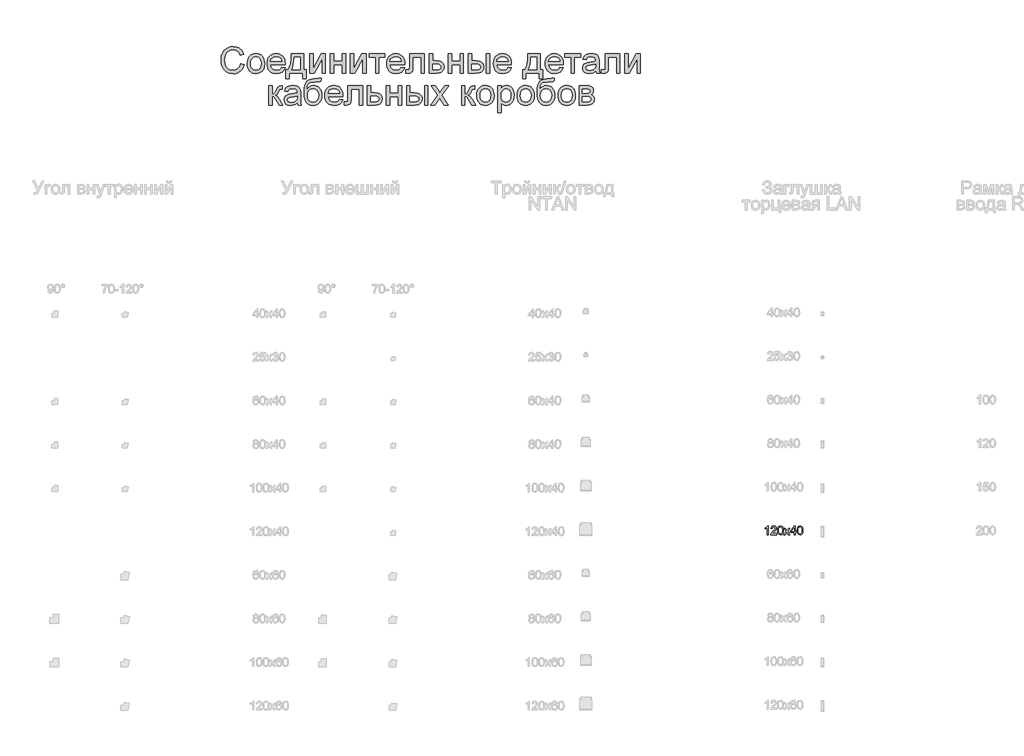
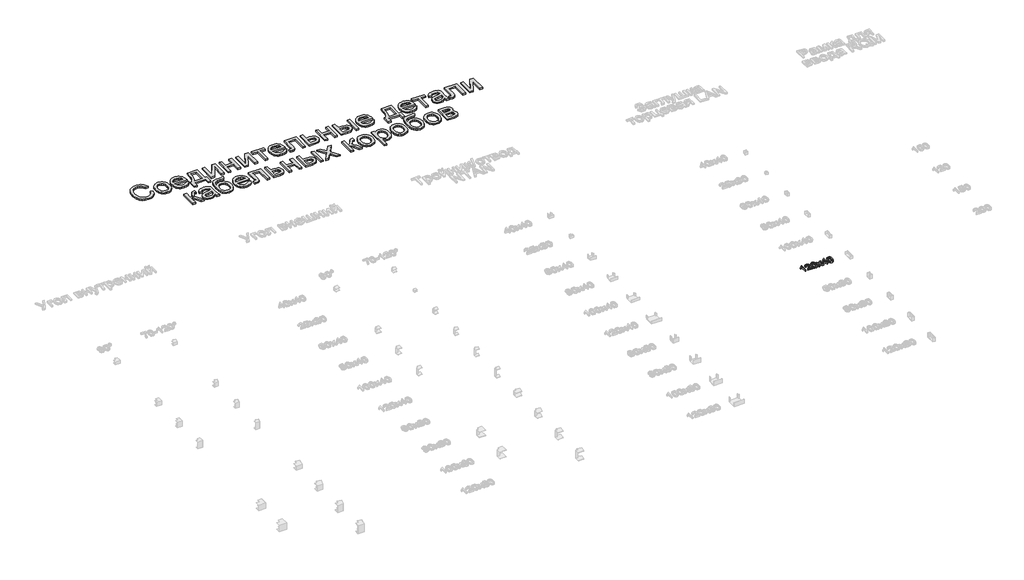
# One storey, part 26 of 28: 2 proxies.
"""IFC4 building model written with IfcOpenShell, lengths in millimetres."""

import ifcopenshell
import ifcopenshell.guid

model = None  # the IFC model being written
_history = None  # IfcOwnerHistory: only IFC2X3 demands one
_inside = {}  # id of a spatial element -> (the spatial element, [elements in it])
_under = {}  # id of a project, library or spatial element -> (it, [spatial elements below it])
_declared = {}  # id of a project -> (the project, [libraries it declares])
_typed = {}  # id of a type object -> (the type object, [elements of that type])
_made_of = {}  # id of a material, layer set ... -> (it, [elements and type objects made of it])


def new_model(schema):
    """Start an empty IFC model of exactly this schema.

    Asked for "IFC4X3", IfcOpenShell would pick the latest addendum, in which some entities
    have other attributes; the version numbers below select the first issue.
    IFC2X3 requires an IfcOwnerHistory on every rooted entity: one is made here for all.
    """
    global model, _history
    if schema == "IFC4X3":
        model = ifcopenshell.file(schema_version=(4, 3, 0, 0))
    else:
        model = ifcopenshell.file(schema=schema)
    _inside.clear()
    _under.clear()
    _declared.clear()
    _typed.clear()
    _made_of.clear()
    _history = None
    if model.schema == "IFC2X3":
        org = make("IfcOrganization", Name="unknown")
        user = make(
            "IfcPersonAndOrganization",
            ThePerson=make("IfcPerson", FamilyName="unknown"),
            TheOrganization=org,
        )
        app = make(
            "IfcApplication",
            ApplicationDeveloper=org,
            Version="unknown",
            ApplicationFullName="unknown",
            ApplicationIdentifier="unknown",
        )
        _history = make(
            "IfcOwnerHistory",
            OwningUser=user,
            OwningApplication=app,
            ChangeAction="ADDED",
            CreationDate=0,
        )
    return model


def make(cls, **values):
    """One entity of the class cls with the attributes given. An attribute that is None is left unset."""
    return model.create_entity(
        cls, **{name: value for name, value in values.items() if value is not None}
    )


def rooted(cls, **values):
    """An entity with a GlobalId (a new one), such as an element, a storey or a relation."""
    return make(cls, GlobalId=ifcopenshell.guid.new(), OwnerHistory=_history, **values)


def si_unit(unit_type, name, prefix=None):
    """IfcSIUnit, for example si_unit("LENGTHUNIT", "METRE", prefix="MILLI")."""
    return make("IfcSIUnit", UnitType=unit_type, Prefix=prefix, Name=name)


def assignment(units):
    """IfcUnitAssignment: the units of a project."""
    return None if units is None else make("IfcUnitAssignment", Units=units)


def point(xyz):
    """IfcCartesianPoint."""
    return None if xyz is None else make("IfcCartesianPoint", Coordinates=xyz)


def direction(xyz):
    """IfcDirection."""
    return None if xyz is None else make("IfcDirection", DirectionRatios=xyz)


def frame(location, z_axis=None, x_axis=None):
    """IfcAxis2Placement3D, a coordinate frame: its origin and axes. An axis left out is left unset."""
    return make(
        "IfcAxis2Placement3D",
        Location=point(location),
        Axis=direction(z_axis),
        RefDirection=direction(x_axis),
    )


def origin():
    """The frame at (0, 0, 0) with its axes left unset."""
    return frame((0.0, 0.0, 0.0))


def origin_with_axes():
    """The frame at (0, 0, 0) with the z axis (0, 0, 1) and the x axis (1, 0, 0) written out."""
    return frame((0.0, 0.0, 0.0), z_axis=(0.0, 0.0, 1.0), x_axis=(1.0, 0.0, 0.0))


def place(relative_to, where):
    """IfcLocalPlacement: puts the frame where relative to a parent placement (None: the world)."""
    return make(
        "IfcLocalPlacement", PlacementRelTo=relative_to, RelativePlacement=where
    )


def context(
    kind, dimensions, precision=None, world=None, true_north=None, identifier=None
):
    """IfcGeometricRepresentationContext, for example the 3D "Model" context."""
    return make(
        "IfcGeometricRepresentationContext",
        ContextIdentifier=identifier,
        ContextType=kind,
        CoordinateSpaceDimension=dimensions,
        Precision=precision,
        WorldCoordinateSystem=world,
        TrueNorth=true_north,
    )


def project(units=None, contexts=None):
    """IfcProject with its units and contexts."""
    return rooted(
        "IfcProject",
        Name="project",
        RepresentationContexts=contexts,
        UnitsInContext=assignment(units),
    )


def spatial(cls, under=None, at=None, **own):
    """A site, building, storey or space (cls), placed at a placement, below another one or the project."""
    s = rooted(cls, ObjectPlacement=at, **own)
    if under is not None:
        _under.setdefault(under.id(), (under, []))[1].append(s)
    return s


def polyline(points):
    """IfcPolyline through the points."""
    return make("IfcPolyline", Points=[point(p) for p in points])


def outline(outer, holes=None, kind="AREA"):
    """IfcArbitraryClosedProfileDef: a profile drawn as a closed curve; with holes, ...WithVoids."""
    if holes is None:
        return make("IfcArbitraryClosedProfileDef", ProfileType=kind, OuterCurve=outer)
    return make(
        "IfcArbitraryProfileDefWithVoids",
        ProfileType=kind,
        OuterCurve=outer,
        InnerCurves=holes,
    )


def extrude(swept, where, along, depth):
    """IfcExtrudedAreaSolid: the profile swept, set in the frame where, extruded along a direction by depth."""
    return make(
        "IfcExtrudedAreaSolid",
        SweptArea=swept,
        Position=where,
        ExtrudedDirection=direction(along),
        Depth=depth,
    )


def shape(context_of_items, identifier, shape_type, items):
    """IfcShapeRepresentation: the items that make up one representation, for example the "Body"."""
    return make(
        "IfcShapeRepresentation",
        ContextOfItems=context_of_items,
        RepresentationIdentifier=identifier,
        RepresentationType=shape_type,
        Items=items,
    )


def made_of(thing, what):
    """Note that an element or type object is made of a material, layer set ...; save() writes the relation."""
    if what is not None:
        _made_of.setdefault(what.id(), (what, []))[1].append(thing)
    return thing


def element(
    cls,
    number,
    at=None,
    inside=None,
    cuts=None,
    type_object=None,
    material=None,
    context=None,
    identifier="Body",
    shape_type=None,
    held_by="IfcProductDefinitionShape",
    body=None,
    shapes=None,
    **own,
):
    """One element of the class cls, such as IfcWall. Its Tag is "e" and its number.

    at: its placement. inside: the storey or other place that contains it. cuts: it is an
    opening in that element (IfcRelVoidsElement). A single representation is given by context,
    identifier, shape_type and body (its items); several are given by shapes. held_by: the class
    of the entity that holds the representations. save() writes the other relations.
    """
    e = rooted(cls, Tag="e%d" % number, ObjectPlacement=at, **own)
    if body is not None:
        shapes = [shape(context, identifier, shape_type, body)]
    if shapes is not None:
        e.Representation = make(held_by, Representations=shapes)
    if inside is not None:
        _inside.setdefault(inside.id(), (inside, []))[1].append(e)
    if cuts is not None:
        rooted(
            "IfcRelVoidsElement", RelatingBuildingElement=cuts, RelatedOpeningElement=e
        )
    if type_object is not None:
        _typed.setdefault(type_object.id(), (type_object, []))[1].append(e)
    return made_of(e, material)


def aggregate(whole, parts):
    """IfcRelAggregates: a whole, such as a stair, and the parts it consists of."""
    return rooted("IfcRelAggregates", RelatingObject=whole, RelatedObjects=parts)


def save(model, path):
    """Write the relations noted so far, then the file.

    IfcRelAggregates (storeys below a building ...), IfcRelContainedInSpatialStructure (elements
    in a storey), IfcRelDefinesByType, IfcRelAssociatesMaterial and IfcRelDeclares: one each for
    every whole, place, type object, material and project.
    """
    for whole, parts in _under.values():
        aggregate(whole, parts)
    for where, things in _inside.values():
        rooted(
            "IfcRelContainedInSpatialStructure",
            RelatedElements=things,
            RelatingStructure=where,
        )
    for kind, things in _typed.values():
        rooted("IfcRelDefinesByType", RelatedObjects=things, RelatingType=kind)
    for what, things in _made_of.values():
        rooted("IfcRelAssociatesMaterial", RelatedObjects=things, RelatingMaterial=what)
    for by, libraries in _declared.values():
        rooted("IfcRelDeclares", RelatingContext=by, RelatedDefinitions=libraries)
    model.write(path)


model = new_model("IFC4")

# Units and contexts
model_context = context("Model", 3, world=origin())
ifc_project = project(units=[si_unit("LENGTHUNIT", "METRE", prefix="MILLI")], contexts=[model_context])

# Site, building, storey
site = spatial("IfcSite", under=ifc_project)
building = spatial("IfcBuilding", under=site)
storey = spatial("IfcBuildingStorey", under=building, Name="Этаж 01", Elevation=0.0)

# Proxies
placement = place(None, origin())
element("IfcBuildingElementProxy", 1, Name="300 мм Arial", ObjectType="300 мм Arial", at=placement, inside=storey, context=model_context, shape_type="SweptSolid", body=[
    extrude(outline(polyline([(17918.2700237, 5946.6326369), (17955.94114, 5936.9205523), (17948.4869311, 5913.4933669), (17938.5587157, 5893.0230332), (17926.1564939, 5875.5095509), (17911.2802658, 5860.9529202), (17894.2657235, 5849.5094909), (17875.4485594, 5841.3356129), (17854.8287736, 5836.431286), (17832.406366, 5834.7965104), (17788.711182, 5839.7445232), (17754.0107128, 5854.5885617), (17727.4128446, 5878.8135911), (17708.0254634, 5911.9045766), (17696.1888602, 5950.8080976), (17692.2433258, 5992.4707335), (17696.703895, 6036.4142378), (17710.0856026, 6074.3612656), (17731.6894728, 6105.1070034), (17760.8165297, 6127.4466376), (17795.3606491, 6141.0490743), (17833.2157064, 6145.5832199), (17874.5196574, 6139.7155021), (17892.4883936, 6132.3808548), (17908.6683036, 6122.1123486), (17922.792673, 6109.1812965), (17934.5947872, 6093.8590114), (17951.2322504, 6056.0407423), (17913.5611341, 6047.0644216), (17900.5013233, 6074.5360096), (17882.6590465, 6093.3807648), (17859.8135746, 6104.2792689), (17831.7441784, 6107.9121036), (17799.3889569, 6103.8837958), (17772.8094828, 6091.7988722), (17752.6403524, 6072.9265259), (17739.5161622, 6048.5359496), (17732.3148722, 6020.963194), (17729.9144421, 5992.5443099), (17732.7563306, 5957.7426732), (17741.2819958, 5927.649926), (17755.8133346, 5903.4156995), (17776.6722437, 5886.1896251), (17801.6790224, 5875.8981263), (17828.6539697, 5872.4676267), (17860.0986832, 5877.139728), (17886.3010783, 5891.1560321), (17906.0839326, 5914.3693859), (17918.2700237, 5946.6326369)])), origin_with_axes(), (0.0, 0.0, 1.0), 20.0),
    extrude(outline(polyline([(17993.6122563, 5950.1643041), (17995.6494028, 5978.82691), (18001.7608425, 6003.5255875), (18011.9465752, 6024.2603364), (18026.2066011, 6041.0311569), (18040.5631959, 6051.7503185), (18056.4097129, 6059.4068625), (18073.7461519, 6064.000789), (18092.572513, 6065.5320978), (18113.3555465, 6063.6673959), (18132.1474186, 6058.0732903), (18148.9481295, 6048.749781), (18163.7576791, 6035.696868), (18175.8449019, 6019.3560096), (18184.4786324, 6000.1686643), (18189.6588708, 5978.134832), (18191.3856169, 5953.2545128), (18188.3321963, 5915.1971204), (18179.1719347, 5886.2264133), (18164.1715463, 5864.5305726), (18143.5977457, 5848.2977796), (18119.1611842, 5838.1718277), (18092.572513, 5834.7965104), (18071.4859769, 5836.6543145), (18052.5193608, 5842.2277267), (18035.6726646, 5851.5167471), (18020.9458885, 5864.5213756), (18008.9874244, 5881.0208831), (18000.4456643, 5900.7945403), (17995.3206083, 5923.8423473), (17993.6122563, 5950.1643041)]), holes=[polyline([(18031.2833726, 5950.2378805), (18035.6427742, 5916.1444166), (18048.7209792, 5891.8550078), (18068.4026659, 5877.314472), (18092.572513, 5872.4676267), (18116.6319955, 5877.3420631), (18136.276894, 5891.9653724), (18149.3550989, 5916.5766779), (18153.7145006, 5951.4151029), (18149.3275078, 5984.5152854), (18136.1665294, 6008.4736003), (18116.4940397, 6023.0141362), (18092.572513, 6027.8609815), (18068.4026659, 6023.0325303), (18048.7209792, 6008.5471767), (18035.6427742, 5984.3129503), (18031.2833726, 5950.2378805)])]), origin_with_axes(), (0.0, 0.0, 1.0), 20.0),
    extrude(outline(polyline([(18388.7175191, 5905.4298535), (18425.6528714, 5900.7209639), (18412.3447402, 5872.890691), (18391.1087521, 5852.0869642), (18362.4231535, 5839.1191238), (18326.7661911, 5834.7965104), (18303.3918889, 5836.6612123), (18282.5651694, 5842.2553178), (18264.2860328, 5851.5788272), (18248.5544789, 5864.6317402), (18235.9039368, 5881.0507735), (18226.8678353, 5900.4726436), (18221.4461744, 5922.8973504), (18219.6389541, 5948.3248941), (18221.4645685, 5974.6146612), (18226.9414117, 5997.7866284), (18236.0694837, 6017.8407956), (18248.8487845, 6034.777163), (18264.5389516, 6048.2324469), (18282.3996225, 6057.8433641), (18302.4307971, 6063.6099143), (18324.6324755, 6065.5320978), (18346.1190833, 6063.6145129), (18365.5501505, 6057.8617582), (18382.9256769, 6048.2738337), (18398.2456628, 6034.8507394), (18410.7513514, 6017.9511602), (18419.6839861, 5997.9337812), (18425.0435669, 5974.7986022), (18426.8300938, 5948.5456233), (18426.6093646, 5938.3920802), (18257.3100704, 5938.3920802), (18263.8307788, 5910.1939253), (18278.9783199, 5889.4637749), (18300.8397075, 5876.7166637), (18327.5019551, 5872.4676267), (18347.5515238, 5874.4357954), (18364.4373074, 5880.3403014), (18378.1593058, 5890.5490268), (18388.7175191, 5905.4298535)]), holes=[polyline([(18257.3100704, 5976.0631965), (18389.1589775, 5976.0631965), (18384.0638119, 5995.9656125), (18374.0758157, 6010.2026457), (18352.1132606, 6023.4463975), (18324.4853228, 6027.8609815), (18299.092268, 6024.3385114), (18278.0954032, 6013.771101), (18263.499685, 5997.2991847), (18257.3100704, 5976.0631965)])]), origin_with_axes(), (0.0, 0.0, 1.0), 20.0),
    extrude(outline(polyline([(18497.4634369, 6060.8232082), (18638.730123, 6060.8232082), (18638.730123, 5877.1765162), (18666.9834603, 5877.1765162), (18666.9834603, 5778.2898359), (18629.312344, 5778.2898359), (18629.312344, 5839.5053999), (18473.9189892, 5839.5053999), (18473.9189892, 5778.2898359), (18436.2478729, 5778.2898359), (18436.2478729, 5877.1765162), (18459.7923206, 5877.1765162), (18476.9080304, 5908.106195), (18488.8917864, 5949.0238699), (18495.7435886, 5999.929541), (18497.4634369, 6060.8232082)]), holes=[polyline([(18530.4256637, 6023.1520919), (18527.3354549, 5977.0288868), (18521.5964958, 5937.3252224), (18513.2087863, 5904.0410989), (18502.1723264, 5877.1765162), (18601.0590067, 5877.1765162), (18601.0590067, 6023.1520919), (18530.4256637, 6023.1520919)])]), origin_with_axes(), (0.0, 0.0, 1.0), 20.0),
    extrude(outline(polyline([(18709.3634661, 6060.8232082), (18747.0345824, 6060.8232082), (18747.0345824, 5892.0389488), (18839.5936924, 6060.8232082), (18888.3012686, 6060.8232082), (18888.3012686, 5839.5053999), (18850.6301523, 5839.5053999), (18850.6301523, 6007.2595897), (18758.6596535, 5839.5053999), (18709.3634661, 5839.5053999), (18709.3634661, 6060.8232082)])), origin_with_axes(), (0.0, 0.0, 1.0), 20.0),
    extrude(outline(polyline([(18944.807943, 6060.8232082), (18982.4790593, 6060.8232082), (18982.4790593, 5976.0631965), (19081.3657396, 5976.0631965), (19081.3657396, 6060.8232082), (19119.0368559, 6060.8232082), (19119.0368559, 5839.5053999), (19081.3657396, 5839.5053999), (19081.3657396, 5938.3920802), (18982.4790593, 5938.3920802), (18982.4790593, 5839.5053999), (18944.807943, 5839.5053999), (18944.807943, 6060.8232082)])), origin_with_axes(), (0.0, 0.0, 1.0), 20.0),
    extrude(outline(polyline([(19175.5435304, 6060.8232082), (19213.2146467, 6060.8232082), (19213.2146467, 5892.0389488), (19305.7737567, 6060.8232082), (19354.4813328, 6060.8232082), (19354.4813328, 5839.5053999), (19316.8102165, 5839.5053999), (19316.8102165, 6007.2595897), (19224.8397177, 5839.5053999), (19175.5435304, 5839.5053999), (19175.5435304, 6060.8232082)])), origin_with_axes(), (0.0, 0.0, 1.0), 20.0),
    extrude(outline(polyline([(19392.1524492, 6060.8232082), (19571.0902516, 6060.8232082), (19571.0902516, 6023.1520919), (19500.4569085, 6023.1520919), (19500.4569085, 5839.5053999), (19462.7857922, 5839.5053999), (19462.7857922, 6023.1520919), (19392.1524492, 6023.1520919), (19392.1524492, 6060.8232082)])), origin_with_axes(), (0.0, 0.0, 1.0), 20.0),
    extrude(outline(polyline([(19759.0043747, 5905.4298535), (19795.9397271, 5900.7209639), (19782.6315959, 5872.890691), (19761.3956077, 5852.0869642), (19732.7100091, 5839.1191238), (19697.0530468, 5834.7965104), (19673.6787445, 5836.6612123), (19652.852025, 5842.2553178), (19634.5728884, 5851.5788272), (19618.8413346, 5864.6317402), (19606.1907925, 5881.0507735), (19597.154691, 5900.4726436), (19591.7330301, 5922.8973504), (19589.9258098, 5948.3248941), (19591.7514242, 5974.6146612), (19597.2282674, 5997.7866284), (19606.3563394, 6017.8407956), (19619.1356402, 6034.777163), (19634.8258073, 6048.2324469), (19652.6864781, 6057.8433641), (19672.7176528, 6063.6099143), (19694.9193312, 6065.5320978), (19716.405939, 6063.6145129), (19735.8370061, 6057.8617582), (19753.2125326, 6048.2738337), (19768.5325184, 6034.8507394), (19781.038207, 6017.9511602), (19789.9708417, 5997.9337812), (19795.3304225, 5974.7986022), (19797.1169494, 5948.5456233), (19796.8962202, 5938.3920802), (19627.5969261, 5938.3920802), (19634.1176344, 5910.1939253), (19649.2651756, 5889.4637749), (19671.1265631, 5876.7166637), (19697.7888107, 5872.4676267), (19717.8383795, 5874.4357954), (19734.7241631, 5880.3403014), (19748.4461615, 5890.5490268), (19759.0043747, 5905.4298535)]), holes=[polyline([(19627.5969261, 5976.0631965), (19759.4458331, 5976.0631965), (19754.3506675, 5995.9656125), (19744.3626713, 6010.2026457), (19722.4001162, 6023.4463975), (19694.7721784, 6027.8609815), (19669.3791237, 6024.3385114), (19648.3822588, 6013.771101), (19633.7865406, 5997.2991847), (19627.5969261, 5976.0631965)])]), origin_with_axes(), (0.0, 0.0, 1.0), 20.0),
    extrude(outline(polyline([(19853.6236239, 6060.8232082), (20023.1436473, 6060.8232082), (20023.1436473, 5839.7261291), (19985.472531, 5839.7261291), (19985.472531, 6023.1520919), (19891.2947402, 6023.1520919), (19891.2947402, 5917.5699593), (19888.7563544, 5868.8623831), (19884.0014797, 5857.8351203), (19874.8136268, 5848.2977796), (19860.8708992, 5841.7034948), (19841.8514001, 5839.5053999), (19811.2436181, 5841.4183863), (19811.2436181, 5877.1765162), (19828.0926134, 5877.1765162), (19845.1255498, 5879.4941728), (19851.9313667, 5886.8518127), (19853.6236239, 5919.7036749), (19853.6236239, 6060.8232082)])), origin_with_axes(), (0.0, 0.0, 1.0), 20.0),
    extrude(outline(polyline([(20079.6503217, 6060.8232082), (20117.321438, 6060.8232082), (20117.321438, 5980.7720861), (20160.7315135, 5980.7720861), (20198.3658416, 5976.0539995), (20213.5133827, 5970.1563913), (20226.2145086, 5961.8997397), (20236.2576871, 5951.5691534), (20243.431386, 5939.449741), (20249.1703451, 5909.8444374), (20244.2867116, 5882.8878842), (20229.6358112, 5860.1435799), (20218.403914, 5851.1143761), (20204.2427565, 5844.6649449), (20167.1326602, 5839.5053999), (20079.6503217, 5839.5053999), (20079.6503217, 6060.8232082)]), holes=[polyline([(20117.321438, 5877.1765162), (20152.4909568, 5877.1765162), (20179.7786038, 5879.153882), (20197.9243832, 5885.0859791), (20208.1055174, 5895.211931), (20211.4992288, 5909.770861), (20208.9884342, 5922.0765137), (20201.4560503, 5932.9474267), (20185.3152278, 5940.562584), (20156.9791171, 5943.1009698), (20117.321438, 5943.1009698), (20117.321438, 5877.1765162)])]), origin_with_axes(), (0.0, 0.0, 1.0), 20.0),
    extrude(outline(polyline([(20296.2592405, 6060.8232082), (20333.9303568, 6060.8232082), (20333.9303568, 5976.0631965), (20432.8170371, 5976.0631965), (20432.8170371, 6060.8232082), (20470.4881534, 6060.8232082), (20470.4881534, 5839.5053999), (20432.8170371, 5839.5053999), (20432.8170371, 5938.3920802), (20333.9303568, 5938.3920802), (20333.9303568, 5839.5053999), (20296.2592405, 5839.5053999), (20296.2592405, 6060.8232082)])), origin_with_axes(), (0.0, 0.0, 1.0), 20.0),
    extrude(outline(polyline([(20734.1859676, 6060.8232082), (20771.8570839, 6060.8232082), (20771.8570839, 5839.5053999), (20734.1859676, 5839.5053999), (20734.1859676, 6060.8232082)])), origin_with_axes(), (0.0, 0.0, 1.0), 20.0),
    extrude(outline(polyline([(20526.9948279, 6060.8232082), (20564.6659442, 6060.8232082), (20564.6659442, 5980.7720861), (20611.2398048, 5980.7720861), (20651.4952921, 5976.0539995), (20667.7119903, 5970.1563913), (20681.3213249, 5961.8997397), (20692.088771, 5951.5691534), (20699.779804, 5939.449741), (20704.3944237, 5925.5415023), (20705.9326303, 5909.8444374), (20700.7730853, 5882.8878842), (20685.2944504, 5860.1435799), (20673.4325553, 5851.1143761), (20658.48505, 5844.6649449), (20619.3332087, 5839.5053999), (20526.9948279, 5839.5053999), (20526.9948279, 6060.8232082)]), holes=[polyline([(20564.6659442, 5877.1765162), (20603.3671301, 5877.1765162), (20633.3679068, 5879.153882), (20653.325505, 5885.0859791), (20664.5275118, 5895.211931), (20668.261514, 5909.770861), (20665.493202, 5922.0765137), (20657.188266, 5932.9474267), (20639.4287627, 5940.562584), (20608.2967488, 5943.1009698), (20564.6659442, 5943.1009698), (20564.6659442, 5877.1765162)])]), origin_with_axes(), (0.0, 0.0, 1.0), 20.0),
    extrude(outline(polyline([(20983.3156547, 5905.4298535), (21020.251007, 5900.7209639), (21006.9428758, 5872.890691), (20985.7068877, 5852.0869642), (20957.0212891, 5839.1191238), (20921.3643267, 5834.7965104), (20897.9900244, 5836.6612123), (20877.163305, 5842.2553178), (20858.8841683, 5851.5788272), (20843.1526145, 5864.6317402), (20830.5020724, 5881.0507735), (20821.4659709, 5900.4726436), (20816.04431, 5922.8973504), (20814.2370897, 5948.3248941), (20816.0627041, 5974.6146612), (20821.5395473, 5997.7866284), (20830.6676193, 6017.8407956), (20843.4469201, 6034.777163), (20859.1370872, 6048.2324469), (20876.9977581, 6057.8433641), (20897.0289327, 6063.6099143), (20919.2306111, 6065.5320978), (20940.7172189, 6063.6145129), (20960.148286, 6057.8617582), (20977.5238125, 6048.2738337), (20992.8437984, 6034.8507394), (21005.3494869, 6017.9511602), (21014.2821216, 5997.9337812), (21019.6417025, 5974.7986022), (21021.4282294, 5948.5456233), (21021.2075002, 5938.3920802), (20851.908206, 5938.3920802), (20858.4289144, 5910.1939253), (20873.5764555, 5889.4637749), (20895.4378431, 5876.7166637), (20922.1000907, 5872.4676267), (20942.1496594, 5874.4357954), (20959.035443, 5880.3403014), (20972.7574414, 5890.5490268), (20983.3156547, 5905.4298535)]), holes=[polyline([(20851.908206, 5976.0631965), (20983.7571131, 5976.0631965), (20978.6619475, 5995.9656125), (20968.6739513, 6010.2026457), (20946.7113962, 6023.4463975), (20919.0834583, 6027.8609815), (20893.6904036, 6024.3385114), (20872.6935387, 6013.771101), (20858.0978206, 5997.2991847), (20851.908206, 5976.0631965)])]), origin_with_axes(), (0.0, 0.0, 1.0), 20.0),
    extrude(outline(polyline([(21209.7838109, 6060.8232082), (21351.0504971, 6060.8232082), (21351.0504971, 5877.1765162), (21379.3038343, 5877.1765162), (21379.3038343, 5778.2898359), (21341.632718, 5778.2898359), (21341.632718, 5839.5053999), (21186.2393632, 5839.5053999), (21186.2393632, 5778.2898359), (21148.5682469, 5778.2898359), (21148.5682469, 5877.1765162), (21172.1126946, 5877.1765162), (21189.2284044, 5908.106195), (21201.2121604, 5949.0238699), (21208.0639626, 5999.929541), (21209.7838109, 6060.8232082)]), holes=[polyline([(21242.7460377, 6023.1520919), (21239.6558289, 5977.0288868), (21233.9168698, 5937.3252224), (21225.5291603, 5904.0410989), (21214.4927005, 5877.1765162), (21313.3793808, 5877.1765162), (21313.3793808, 6023.1520919), (21242.7460377, 6023.1520919)])]), origin_with_axes(), (0.0, 0.0, 1.0), 20.0),
    extrude(outline(polyline([(21576.6357365, 5905.4298535), (21613.5710888, 5900.7209639), (21600.2629577, 5872.890691), (21579.0269695, 5852.0869642), (21550.3413709, 5839.1191238), (21514.6844085, 5834.7965104), (21491.3101063, 5836.6612123), (21470.4833868, 5842.2553178), (21452.2042502, 5851.5788272), (21436.4726964, 5864.6317402), (21423.8221542, 5881.0507735), (21414.7860527, 5900.4726436), (21409.3643918, 5922.8973504), (21407.5571715, 5948.3248941), (21409.3827859, 5974.6146612), (21414.8596291, 5997.7866284), (21423.9877011, 6017.8407956), (21436.7670019, 6034.777163), (21452.457169, 6048.2324469), (21470.3178399, 6057.8433641), (21490.3490145, 6063.6099143), (21512.550693, 6065.5320978), (21534.0373007, 6063.6145129), (21553.4683679, 6057.8617582), (21570.8438944, 6048.2738337), (21586.1638802, 6034.8507394), (21598.6695688, 6017.9511602), (21607.6022035, 5997.9337812), (21612.9617843, 5974.7986022), (21614.7483112, 5948.5456233), (21614.527582, 5938.3920802), (21445.2282878, 5938.3920802), (21451.7489962, 5910.1939253), (21466.8965374, 5889.4637749), (21488.7579249, 5876.7166637), (21515.4201725, 5872.4676267), (21535.4697413, 5874.4357954), (21552.3555248, 5880.3403014), (21566.0775233, 5890.5490268), (21576.6357365, 5905.4298535)]), holes=[polyline([(21445.2282878, 5976.0631965), (21577.0771949, 5976.0631965), (21571.9820293, 5995.9656125), (21561.9940331, 6010.2026457), (21540.031478, 6023.4463975), (21512.4035402, 6027.8609815), (21487.0104854, 6024.3385114), (21466.0136206, 6013.771101), (21451.4179024, 5997.2991847), (21445.2282878, 5976.0631965)])]), origin_with_axes(), (0.0, 0.0, 1.0), 20.0),
    extrude(outline(polyline([(21633.5838694, 6060.8232082), (21812.5216718, 6060.8232082), (21812.5216718, 6023.1520919), (21741.8883287, 6023.1520919), (21741.8883287, 5839.5053999), (21704.2172124, 5839.5053999), (21704.2172124, 6023.1520919), (21633.5838694, 6023.1520919), (21633.5838694, 6060.8232082)])), origin_with_axes(), (0.0, 0.0, 1.0), 20.0),
    extrude(outline(polyline([(21986.7505847, 5867.7587372), (21968.7519581, 5852.3260875), (21950.2199026, 5842.2277267), (21930.7313539, 5836.6543145), (21909.8632477, 5834.7965104), (21878.381746, 5839.2662766), (21855.1591951, 5852.6755754), (21840.8393884, 5873.0378438), (21836.0661195, 5898.3665192), (21837.8687413, 5913.9831099), (21843.2766066, 5928.1649608), (21851.6183309, 5940.3050666), (21862.2225294, 5949.7964221), (21888.5996684, 5962.1572571), (21921.1940132, 5967.8226398), (21959.7112581, 5973.7823282), (21986.5298555, 5980.7720861), (21986.7505847, 5989.1597956), (21984.1570167, 6005.9720027), (21976.3763125, 6016.9716744), (21958.9754941, 6025.1386547), (21934.7320706, 6027.8609815), (21912.2912689, 6026.0491626), (21896.6194959, 6020.6137062), (21885.932524, 6010.5613306), (21878.4461254, 5994.8987547), (21840.775009, 5999.6076442), (21847.3141115, 6020.209036), (21857.0721814, 6036.3958437), (21870.9597268, 6048.7750729), (21889.8872554, 6057.9537287), (21913.03623, 6063.6375055), (21939.588113, 6065.5320978), (21965.0547441, 6063.8582347), (21985.2422686, 6058.8366455), (22000.4633861, 6051.2858675), (22011.0307964, 6042.0244383), (22018.0389484, 6030.5741112), (22022.5822911, 6016.4566396), (22024.421701, 5983.4944128), (22024.421701, 5936.6262467), (22026.3346874, 5871.1800397), (22033.8394801, 5839.5053999), (21996.1683638, 5839.5053999), (21986.7505847, 5867.7587372)]), holes=[polyline([(21986.7505847, 5943.1009698), (21925.9764791, 5931.5494751), (21893.5660754, 5925.442634), (21878.8875838, 5915.5098201), (21873.7372358, 5901.0152695), (21876.542336, 5889.8132628), (21884.9576367, 5880.634607), (21898.7991967, 5874.5093718), (21917.8830752, 5872.4676267), (21938.116585, 5874.7209039), (21955.9956499, 5881.4807356), (21970.4902005, 5891.4411406), (21980.5701672, 5903.2961379), (21985.0399335, 5915.5098201), (21986.5298555, 5932.4323919), (21986.7505847, 5943.1009698)])]), origin_with_axes(), (0.0, 0.0, 1.0), 20.0),
    extrude(outline(polyline([(22095.0550441, 6060.8232082), (22264.5750675, 6060.8232082), (22264.5750675, 5839.7261291), (22226.9039512, 5839.7261291), (22226.9039512, 6023.1520919), (22132.7261604, 6023.1520919), (22132.7261604, 5917.5699593), (22130.1877747, 5868.8623831), (22125.4328999, 5857.8351203), (22116.245047, 5848.2977796), (22102.3023194, 5841.7034948), (22083.2828203, 5839.5053999), (22052.6750383, 5841.4183863), (22052.6750383, 5877.1765162), (22069.5240337, 5877.1765162), (22086.55697, 5879.4941728), (22093.3627869, 5886.8518127), (22095.0550441, 5919.7036749), (22095.0550441, 6060.8232082)])), origin_with_axes(), (0.0, 0.0, 1.0), 20.0),
    extrude(outline(polyline([(22321.081742, 6060.8232082), (22358.7528583, 6060.8232082), (22358.7528583, 5892.0389488), (22451.3119682, 6060.8232082), (22500.0195444, 6060.8232082), (22500.0195444, 5839.5053999), (22462.3484281, 5839.5053999), (22462.3484281, 6007.2595897), (22370.3779293, 5839.5053999), (22321.081742, 5839.5053999), (22321.081742, 6060.8232082)])), origin_with_axes(), (0.0, 0.0, 1.0), 20.0),
    extrude(outline(polyline([(18240.828957, 5694.8987547), (18278.5000734, 5694.8987547), (18278.5000734, 5600.7209639), (18293.8223585, 5602.4132211), (18303.7367782, 5607.4899926), (18312.5107638, 5620.7337445), (18324.4117464, 5646.9269425), (18341.5918355, 5680.9560271), (18356.7485737, 5692.0292751), (18384.3029352, 5694.8987547), (18391.5134223, 5694.8987547), (18391.5134223, 5657.0069092), (18381.3598792, 5657.2276384), (18362.9657794, 5653.2545128), (18350.0163332, 5628.4592664), (18334.8228068, 5601.6406689), (18313.5224393, 5588.5072817), (18325.46021, 5583.2051824), (18337.2876162, 5573.8471842), (18360.6113347, 5542.9634907), (18400.9312013, 5473.5809464), (18358.1097371, 5473.5809464), (18318.5992108, 5541.4919627), (18298.7335831, 5570.2235465), (18289.4445627, 5575.4382738), (18278.5000734, 5577.1765162), (18278.5000734, 5473.5809464), (18240.828957, 5473.5809464), (18240.828957, 5694.8987547)])), origin_with_axes(), (0.0, 0.0, 1.0), 20.0),
    extrude(outline(polyline([(18565.7423352, 5501.8342836), (18547.7437086, 5486.4016339), (18529.2116531, 5476.3032732), (18509.7231044, 5470.7298609), (18488.8549982, 5468.8720569), (18457.3734965, 5473.3418231), (18434.1509455, 5486.7511218), (18419.8311389, 5507.1133903), (18415.05787, 5532.4420656), (18416.8604917, 5548.0586563), (18422.2683571, 5562.2405072), (18430.6100813, 5574.3806131), (18441.2142798, 5583.8719685), (18467.5914189, 5596.2328036), (18500.1857636, 5601.8981863), (18538.7030085, 5607.8578746), (18565.521606, 5614.8476325), (18565.7423352, 5623.235342), (18563.1487671, 5640.0475492), (18555.3680629, 5651.0472209), (18537.9672446, 5659.2142012), (18513.7238211, 5661.9365279), (18491.2830194, 5660.1247091), (18475.6112464, 5654.6892526), (18464.9242744, 5644.6368771), (18457.4378758, 5628.9743012), (18419.7667595, 5633.6831907), (18426.305862, 5654.2845824), (18436.0639319, 5670.4713902), (18449.9514772, 5682.8506193), (18468.8790059, 5692.0292751), (18492.0279804, 5697.713052), (18518.5798634, 5699.6076442), (18544.0464945, 5697.9337812), (18564.234019, 5692.9121919), (18579.4551366, 5685.361414), (18590.0225469, 5676.0999847), (18597.0306989, 5664.6496576), (18601.5740415, 5650.5321861), (18603.4134515, 5617.5699593), (18603.4134515, 5570.7017931), (18605.3264379, 5505.2555862), (18612.8312306, 5473.5809464), (18575.1601143, 5473.5809464), (18565.7423352, 5501.8342836)]), holes=[polyline([(18565.7423352, 5577.1765162), (18504.9682296, 5565.6250216), (18472.5578258, 5559.5181805), (18457.8793342, 5549.5853666), (18452.7289863, 5535.090816), (18455.5340865, 5523.8888092), (18463.9493871, 5514.7101535), (18477.7909472, 5508.5849182), (18496.8748257, 5506.5431732), (18517.1083354, 5508.7964504), (18534.9874004, 5515.556282), (18549.481951, 5525.5166871), (18559.5619177, 5537.3716844), (18564.0316839, 5549.5853666), (18565.521606, 5566.5079384), (18565.7423352, 5577.1765162)])]), origin_with_axes(), (0.0, 0.0, 1.0), 20.0),
    extrude(outline(polyline([(18810.6045912, 5779.6587664), (18843.5668179, 5779.6587664), (18839.9983626, 5761.7521103), (18833.8547333, 5750.264995), (18825.3382651, 5743.4683751), (18814.6512931, 5739.6332053), (18768.5188909, 5737.2787605), (18730.2131782, 5735.1082568), (18706.3836219, 5728.5967454), (18692.1281946, 5717.3027682), (18682.5448687, 5700.7848666), (18676.9070771, 5678.914282), (18674.488253, 5651.5622557), (18689.6357941, 5672.6051058), (18707.1193859, 5687.6146912), (18726.9574225, 5696.609406), (18749.168298, 5699.6076442), (18769.6915148, 5697.7015556), (18788.3661246, 5691.9832899), (18805.1921273, 5682.4528469), (18820.1695231, 5669.1102268), (18832.4659787, 5652.5164496), (18841.2491614, 5633.2325352), (18846.519071, 5611.2584838), (18848.2757075, 5586.5942953), (18844.7900256, 5550.6338303), (18834.3329799, 5521.7734878), (18819.0934682, 5499.3418831), (18801.2603885, 5482.6676317), (18778.672434, 5472.3209506), (18749.168298, 5468.8720569), (18715.1668046, 5473.3142319), (18689.6817794, 5486.6407572), (18670.9289947, 5506.8926611), (18657.1242228, 5532.1109718), (18648.6261487, 5570.0855908), (18645.7934573, 5628.6064192), (18647.5799843, 5668.270996), (18652.9395651, 5700.8860342), (18661.8721998, 5726.4515336), (18674.3778884, 5744.9674942), (18690.589988, 5758.0847866), (18710.641856, 5767.4542812), (18734.5334924, 5773.0759779), (18762.264897, 5774.9498768), (18804.2034445, 5775.7960054), (18810.6045912, 5779.6587664)]), holes=[polyline([(18810.6045912, 5587.7715177), (18806.521101, 5617.4136095), (18794.2706306, 5641.1511952), (18774.5889438, 5656.7401947), (18748.2118048, 5661.9365279), (18720.7126257, 5656.4458891), (18709.625582, 5649.5825907), (18700.313569, 5639.9739728), (18687.6768225, 5614.3234007), (18683.4645736, 5581.2967946), (18688.1182809, 5549.2818639), (18702.0794026, 5525.7834015), (18722.8647353, 5511.3532302), (18747.9910756, 5506.5431732), (18773.2461746, 5512.1073883), (18793.240561, 5528.8000339), (18806.2635836, 5554.6713352), (18810.6045912, 5587.7715177)])]), origin_with_axes(), (0.0, 0.0, 1.0), 20.0),
    extrude(outline(polyline([(19050.3164992, 5539.5053999), (19087.2518516, 5534.7965104), (19073.9437204, 5506.9662375), (19052.7077322, 5486.1625106), (19024.0221336, 5473.1946703), (18988.3651712, 5468.8720569), (18964.990869, 5470.7367587), (18944.1641495, 5476.3308643), (18925.8850129, 5485.6543736), (18910.1534591, 5498.7072867), (18897.502917, 5515.12632), (18888.4668155, 5534.54819), (18883.0451546, 5556.9728969), (18881.2379343, 5582.4004406), (18883.0635487, 5608.6902076), (18888.5403919, 5631.8621748), (18897.6684639, 5651.9163421), (18910.4477647, 5668.8527094), (18926.1379318, 5682.3079934), (18943.9986026, 5691.9189105), (18964.0297773, 5697.6854608), (18986.2314557, 5699.6076442), (19007.7180635, 5697.6900593), (19027.1491306, 5691.9373046), (19044.5246571, 5682.3493801), (19059.8446429, 5668.9262858), (19072.3503315, 5652.0267067), (19081.2829662, 5632.0093276), (19086.642547, 5608.8741486), (19088.4290739, 5582.6211698), (19088.2083447, 5572.4676267), (18918.9090506, 5572.4676267), (18925.4297589, 5544.2694718), (18940.5773001, 5523.5393213), (18962.4386876, 5510.7922102), (18989.1009352, 5506.5431732), (19009.150504, 5508.5113418), (19026.0362876, 5514.4158479), (19039.758286, 5524.6245732), (19050.3164992, 5539.5053999)]), holes=[polyline([(18918.9090506, 5610.138743), (19050.7579576, 5610.138743), (19045.662792, 5630.0411589), (19035.6747958, 5644.2781922), (19013.7122407, 5657.521944), (18986.0843029, 5661.9365279), (18960.6912482, 5658.4140578), (18939.6943833, 5647.8466475), (18925.0986651, 5631.3747312), (18918.9090506, 5610.138743)])]), origin_with_axes(), (0.0, 0.0, 1.0), 20.0),
    extrude(outline(polyline([(19144.9357484, 5694.8987547), (19314.4557718, 5694.8987547), (19314.4557718, 5473.8016756), (19276.7846555, 5473.8016756), (19276.7846555, 5657.2276384), (19182.6068647, 5657.2276384), (19182.6068647, 5551.6455058), (19180.0684789, 5502.9379296), (19175.3136041, 5491.9106668), (19166.1257513, 5482.3733261), (19152.1830237, 5475.7790413), (19133.1635245, 5473.5809464), (19102.5557425, 5475.4939328), (19102.5557425, 5511.2520627), (19119.4047379, 5511.2520627), (19136.4376743, 5513.5697193), (19143.2434912, 5520.9273592), (19144.9357484, 5553.7792213), (19144.9357484, 5694.8987547)])), origin_with_axes(), (0.0, 0.0, 1.0), 20.0),
    extrude(outline(polyline([(19370.9624462, 5694.8987547), (19408.6335625, 5694.8987547), (19408.6335625, 5614.8476325), (19452.043638, 5614.8476325), (19489.6779661, 5610.129546), (19504.8255072, 5604.2319377), (19517.5266331, 5595.9752862), (19527.5698116, 5585.6446999), (19534.7435105, 5573.5252874), (19540.4824696, 5543.9199839), (19535.5988361, 5516.9634307), (19520.9479357, 5494.2191263), (19509.7160385, 5485.1899226), (19495.5548809, 5478.7404914), (19458.4447847, 5473.5809464), (19370.9624462, 5473.5809464), (19370.9624462, 5694.8987547)]), holes=[polyline([(19408.6335625, 5511.2520627), (19443.8030813, 5511.2520627), (19471.0907283, 5513.2294284), (19489.2365077, 5519.1615256), (19499.4176419, 5529.2874775), (19502.8113533, 5543.8464075), (19500.3005587, 5556.1520602), (19492.7681748, 5567.0229732), (19476.6273523, 5574.6381305), (19448.2912416, 5577.1765162), (19408.6335625, 5577.1765162), (19408.6335625, 5511.2520627)])]), origin_with_axes(), (0.0, 0.0, 1.0), 20.0),
    extrude(outline(polyline([(19587.571365, 5694.8987547), (19625.2424813, 5694.8987547), (19625.2424813, 5610.138743), (19724.1291616, 5610.138743), (19724.1291616, 5694.8987547), (19761.8002779, 5694.8987547), (19761.8002779, 5473.5809464), (19724.1291616, 5473.5809464), (19724.1291616, 5572.4676267), (19625.2424813, 5572.4676267), (19625.2424813, 5473.5809464), (19587.571365, 5473.5809464), (19587.571365, 5694.8987547)])), origin_with_axes(), (0.0, 0.0, 1.0), 20.0),
    extrude(outline(polyline([(20025.498092, 5694.8987547), (20063.1692084, 5694.8987547), (20063.1692084, 5473.5809464), (20025.498092, 5473.5809464), (20025.498092, 5694.8987547)])), origin_with_axes(), (0.0, 0.0, 1.0), 20.0),
    extrude(outline(polyline([(19818.3069524, 5694.8987547), (19855.9780687, 5694.8987547), (19855.9780687, 5614.8476325), (19902.5519293, 5614.8476325), (19942.8074166, 5610.129546), (19959.0241148, 5604.2319377), (19972.6334493, 5595.9752862), (19983.4008955, 5585.6446999), (19991.0919285, 5573.5252874), (19995.7065482, 5559.6170488), (19997.2447548, 5543.9199839), (19992.0852098, 5516.9634307), (19976.6065749, 5494.2191263), (19964.7446798, 5485.1899226), (19949.7971745, 5478.7404914), (19910.6453332, 5473.5809464), (19818.3069524, 5473.5809464), (19818.3069524, 5694.8987547)]), holes=[polyline([(19855.9780687, 5511.2520627), (19894.6792546, 5511.2520627), (19924.6800313, 5513.2294284), (19944.6376295, 5519.1615256), (19955.8396363, 5529.2874775), (19959.5736385, 5543.8464075), (19956.8053265, 5556.1520602), (19948.5003905, 5567.0229732), (19930.7408871, 5574.6381305), (19899.6088733, 5577.1765162), (19855.9780687, 5577.1765162), (19855.9780687, 5511.2520627)])]), origin_with_axes(), (0.0, 0.0, 1.0), 20.0),
    extrude(outline(polyline([(20096.1314351, 5473.5809464), (20176.6240157, 5584.8284617), (20100.8403247, 5694.8987547), (20146.1633865, 5694.8987547), (20182.7308568, 5641.9237474), (20199.8005814, 5616.9077717), (20214.5894376, 5637.3620106), (20256.2336794, 5694.8987547), (20301.5567412, 5694.8987547), (20221.9470775, 5584.8284617), (20298.6136853, 5473.5809464), (20253.2906235, 5473.5809464), (20207.1582213, 5540.4618931), (20198.6969354, 5552.6755754), (20141.4544969, 5473.5809464), (20096.1314351, 5473.5809464)])), origin_with_axes(), (0.0, 0.0, 1.0), 20.0),
    extrude(outline(polyline([(20449.2981505, 5694.8987547), (20486.9692668, 5694.8987547), (20486.9692668, 5600.7209639), (20502.2915519, 5602.4132211), (20512.2059717, 5607.4899926), (20520.9799573, 5620.7337445), (20532.8809398, 5646.9269425), (20550.061029, 5680.9560271), (20565.2177672, 5692.0292751), (20592.7721286, 5694.8987547), (20599.9826157, 5694.8987547), (20599.9826157, 5657.0069092), (20589.8290727, 5657.2276384), (20571.4349729, 5653.2545128), (20558.4855267, 5628.4592664), (20543.2920003, 5601.6406689), (20521.9916327, 5588.5072817), (20533.9294035, 5583.2051824), (20545.7568096, 5573.8471842), (20569.0805281, 5542.9634907), (20609.4003948, 5473.5809464), (20566.5789306, 5473.5809464), (20527.0684043, 5541.4919627), (20507.2027765, 5570.2235465), (20497.9137562, 5575.4382738), (20486.9692668, 5577.1765162), (20486.9692668, 5473.5809464), (20449.2981505, 5473.5809464), (20449.2981505, 5694.8987547)])), origin_with_axes(), (0.0, 0.0, 1.0), 20.0),
    extrude(outline(polyline([(20623.5270634, 5584.2398505), (20625.56421, 5612.9024565), (20631.6756496, 5637.6011339), (20641.8613823, 5658.3358829), (20656.1214082, 5675.1067033), (20670.478003, 5685.825865), (20686.32452, 5693.482409), (20703.660959, 5698.0763354), (20722.4873201, 5699.6076442), (20743.2703536, 5697.7429424), (20762.0622257, 5692.1488368), (20778.8629366, 5682.8253275), (20793.6724862, 5669.7724144), (20805.759709, 5653.431556), (20814.3934396, 5634.2442107), (20819.5736779, 5612.2103785), (20821.300424, 5587.3300593), (20818.2470035, 5549.2726669), (20809.0867418, 5520.3019598), (20794.0863534, 5498.6061191), (20773.5125528, 5482.3733261), (20749.0759913, 5472.2473742), (20722.4873201, 5468.8720569), (20701.400784, 5470.7298609), (20682.4341679, 5476.3032732), (20665.5874718, 5485.5922935), (20650.8606957, 5498.5969221), (20638.9022315, 5515.0964295), (20630.3604715, 5534.8700868), (20625.2354154, 5557.9178938), (20623.5270634, 5584.2398505)]), holes=[polyline([(20661.1981797, 5584.3134269), (20665.5575814, 5550.219963), (20678.6357863, 5525.9305543), (20698.317473, 5511.3900184), (20722.4873201, 5506.5431732), (20746.5468026, 5511.4176096), (20766.1917011, 5526.0409189), (20779.2699061, 5550.6522244), (20783.6293077, 5585.4906493), (20779.2423149, 5618.5908318), (20766.0813365, 5642.5491468), (20746.4088468, 5657.0896826), (20722.4873201, 5661.9365279), (20698.317473, 5657.1080767), (20678.6357863, 5642.6227232), (20665.5575814, 5618.3884967), (20661.1981797, 5584.3134269)])]), origin_with_axes(), (0.0, 0.0, 1.0), 20.0),
    extrude(outline(polyline([(20863.6804299, 5388.8209347), (20863.6804299, 5694.8987547), (20901.3515462, 5694.8987547), (20901.3515462, 5657.9634024), (20913.6388048, 5676.1827582), (20927.3975914, 5689.1965838), (20943.4372464, 5697.0048791), (20962.5671102, 5699.6076442), (20988.0429383, 5695.9656125), (21010.3181931, 5685.0395172), (21028.4547755, 5667.491546), (21041.5145863, 5643.9838866), (21049.4056551, 5616.22719), (21052.0360114, 5585.9321077), (21049.0653643, 5553.714842), (21040.1534229, 5524.9004847), (21025.5852959, 5500.9513668), (21005.6460918, 5483.3298193), (20982.4235409, 5472.4864975), (20958.0053734, 5468.8720569), (20940.6873285, 5471.290881), (20925.2270877, 5478.5473533), (20911.9925329, 5489.5010397), (20901.3515462, 5503.011506), (20901.3515462, 5388.8209347), (20863.6804299, 5388.8209347)]), holes=[polyline([(20901.3515462, 5582.474017), (20905.4258393, 5548.7024498), (20917.6487186, 5525.0844257), (20935.6841334, 5511.1784863), (20957.196033, 5506.5431732), (20979.0574206, 5511.3440332), (20997.5526879, 5525.7466133), (21010.1618433, 5550.2291601), (21014.3648951, 5585.2699201), (21010.2630108, 5618.8575463), (20997.9573581, 5642.8066642), (20979.9495344, 5657.154062), (20958.7411374, 5661.9365279), (20937.4499669, 5656.8505593), (20918.7523645, 5641.5926536), (20905.7017508, 5616.6410573), (20901.3515462, 5582.474017)])]), origin_with_axes(), (0.0, 0.0, 1.0), 20.0),
    extrude(outline(polyline([(21084.9982382, 5584.2398505), (21087.0353847, 5612.9024565), (21093.1468244, 5637.6011339), (21103.3325571, 5658.3358829), (21117.5925829, 5675.1067033), (21131.9491778, 5685.825865), (21147.7956947, 5693.482409), (21165.1321338, 5698.0763354), (21183.9584949, 5699.6076442), (21204.7415283, 5697.7429424), (21223.5334005, 5692.1488368), (21240.3341114, 5682.8253275), (21255.1436609, 5669.7724144), (21267.2308837, 5653.431556), (21275.8646143, 5634.2442107), (21281.0448527, 5612.2103785), (21282.7715988, 5587.3300593), (21279.7181782, 5549.2726669), (21270.5579165, 5520.3019598), (21255.5575282, 5498.6061191), (21234.9837276, 5482.3733261), (21210.5471661, 5472.2473742), (21183.9584949, 5468.8720569), (21162.8719588, 5470.7298609), (21143.9053426, 5476.3032732), (21127.0586465, 5485.5922935), (21112.3318704, 5498.5969221), (21100.3734063, 5515.0964295), (21091.8316462, 5534.8700868), (21086.7065902, 5557.9178938), (21084.9982382, 5584.2398505)]), holes=[polyline([(21122.6693545, 5584.3134269), (21127.0287561, 5550.219963), (21140.106961, 5525.9305543), (21159.7886478, 5511.3900184), (21183.9584949, 5506.5431732), (21208.0179773, 5511.4176096), (21227.6628759, 5526.0409189), (21240.7410808, 5550.6522244), (21245.1004825, 5585.4906493), (21240.7134897, 5618.5908318), (21227.5525113, 5642.5491468), (21207.8800216, 5657.0896826), (21183.9584949, 5661.9365279), (21159.7886478, 5657.1080767), (21140.106961, 5642.6227232), (21127.0287561, 5618.3884967), (21122.6693545, 5584.3134269)])]), origin_with_axes(), (0.0, 0.0, 1.0), 20.0),
    extrude(outline(polyline([(21480.5449594, 5779.6587664), (21513.5071861, 5779.6587664), (21509.9387308, 5761.7521103), (21503.7951015, 5750.264995), (21495.2786333, 5743.4683751), (21484.5916613, 5739.6332053), (21438.4592591, 5737.2787605), (21400.1535464, 5735.1082568), (21376.3239901, 5728.5967454), (21362.0685628, 5717.3027682), (21352.4852369, 5700.7848666), (21346.8474453, 5678.914282), (21344.4286212, 5651.5622557), (21359.5761623, 5672.6051058), (21377.0597541, 5687.6146912), (21396.8977907, 5696.609406), (21419.1086662, 5699.6076442), (21439.631883, 5697.7015556), (21458.3064928, 5691.9832899), (21475.1324955, 5682.4528469), (21490.1098912, 5669.1102268), (21502.4063469, 5652.5164496), (21511.1895296, 5633.2325352), (21516.4594392, 5611.2584838), (21518.2160757, 5586.5942953), (21514.7303938, 5550.6338303), (21504.2733481, 5521.7734878), (21489.0338364, 5499.3418831), (21471.2007567, 5482.6676317), (21448.6128022, 5472.3209506), (21419.1086662, 5468.8720569), (21385.1071728, 5473.3142319), (21359.6221476, 5486.6407572), (21340.8693629, 5506.8926611), (21327.064591, 5532.1109718), (21318.5665169, 5570.0855908), (21315.7338255, 5628.6064192), (21317.5203525, 5668.270996), (21322.8799333, 5700.8860342), (21331.812568, 5726.4515336), (21344.3182566, 5744.9674942), (21360.5303562, 5758.0847866), (21380.5822242, 5767.4542812), (21404.4738606, 5773.0759779), (21432.2052652, 5774.9498768), (21474.1438127, 5775.7960054), (21480.5449594, 5779.6587664)]), holes=[polyline([(21480.5449594, 5587.7715177), (21476.4614692, 5617.4136095), (21464.2109988, 5641.1511952), (21444.529312, 5656.7401947), (21418.152173, 5661.9365279), (21390.6529939, 5656.4458891), (21379.5659502, 5649.5825907), (21370.2539372, 5639.9739728), (21357.6171907, 5614.3234007), (21353.4049418, 5581.2967946), (21358.0586491, 5549.2818639), (21372.0197708, 5525.7834015), (21392.8051035, 5511.3532302), (21417.9314438, 5506.5431732), (21443.1865428, 5512.1073883), (21463.1809292, 5528.8000339), (21476.2039518, 5554.6713352), (21480.5449594, 5587.7715177)])]), origin_with_axes(), (0.0, 0.0, 1.0), 20.0),
    extrude(outline(polyline([(21555.887192, 5584.2398505), (21557.9243385, 5612.9024565), (21564.0357782, 5637.6011339), (21574.2215109, 5658.3358829), (21588.4815368, 5675.1067033), (21602.8381316, 5685.825865), (21618.6846486, 5693.482409), (21636.0210876, 5698.0763354), (21654.8474487, 5699.6076442), (21675.6304822, 5697.7429424), (21694.4223543, 5692.1488368), (21711.2230652, 5682.8253275), (21726.0326148, 5669.7724144), (21738.1198376, 5653.431556), (21746.7535681, 5634.2442107), (21751.9338065, 5612.2103785), (21753.6605526, 5587.3300593), (21750.607132, 5549.2726669), (21741.4468704, 5520.3019598), (21726.446482, 5498.6061191), (21705.8726814, 5482.3733261), (21681.4361199, 5472.2473742), (21654.8474487, 5468.8720569), (21633.7609126, 5470.7298609), (21614.7942965, 5476.3032732), (21597.9476003, 5485.5922935), (21583.2208242, 5498.5969221), (21571.2623601, 5515.0964295), (21562.7206, 5534.8700868), (21557.595544, 5557.9178938), (21555.887192, 5584.2398505)]), holes=[polyline([(21593.5583083, 5584.3134269), (21597.9177099, 5550.219963), (21610.9959149, 5525.9305543), (21630.6776016, 5511.3900184), (21654.8474487, 5506.5431732), (21678.9069312, 5511.4176096), (21698.5518297, 5526.0409189), (21711.6300346, 5550.6522244), (21715.9894363, 5585.4906493), (21711.6024435, 5618.5908318), (21698.4414651, 5642.5491468), (21678.7689754, 5657.0896826), (21654.8474487, 5661.9365279), (21630.6776016, 5657.1080767), (21610.9959149, 5642.6227232), (21597.9177099, 5618.3884967), (21593.5583083, 5584.3134269)])]), origin_with_axes(), (0.0, 0.0, 1.0), 20.0),
    extrude(outline(polyline([(21796.0405584, 5694.8987547), (21879.0347365, 5694.8987547), (21905.7153782, 5693.6387589), (21924.5417394, 5689.8587714), (21938.3924965, 5682.7218606), (21950.1463262, 5671.3910952), (21958.1753508, 5656.6298301), (21960.8516923, 5639.2014206), (21959.2330115, 5625.1575255), (21954.3769692, 5613.0450108), (21946.2651712, 5602.8086942), (21934.8792234, 5594.3933936), (21948.821951, 5586.5667042), (21960.1895047, 5573.9759429), (21967.7494797, 5557.6143911), (21970.2694714, 5538.4753303), (21963.8867187, 5509.7621406), (21948.7115864, 5489.547025), (21924.6888921, 5477.572466), (21891.7634536, 5473.5809464), (21796.0405584, 5473.5809464), (21796.0405584, 5694.8987547)]), holes=[polyline([(21833.7116747, 5610.138743), (21870.9413327, 5610.138743), (21901.6594793, 5612.0517294), (21916.5954883, 5619.7036749), (21921.534304, 5626.0312452), (21923.180576, 5633.5360379), (21920.2927023, 5644.7748328), (21911.6290813, 5652.0037141), (21895.9757024, 5655.9216573), (21872.118555, 5657.2276384), (21833.7116747, 5657.2276384), (21833.7116747, 5610.138743)]), polyline([(21833.7116747, 5511.2520627), (21879.9176533, 5511.2520627), (21905.0991759, 5512.9535169), (21920.8997076, 5518.0578796), (21929.3793876, 5527.3377029), (21932.598355, 5541.5655391), (21930.9888713, 5550.9925152), (21926.1604201, 5559.7021215), (21918.7475979, 5566.5171354), (21909.3850012, 5570.2603347), (21876.2388334, 5572.4676267), (21833.7116747, 5572.4676267), (21833.7116747, 5511.2520627)])]), origin_with_axes(), (0.0, 0.0, 1.0), 20.0),
])
element("IfcBuildingElementProxy", 2, Name="100 мм Arial", ObjectType="100 мм Arial", at=placement, inside=storey, context=model_context, shape_type="SweptSolid", body=[
    extrude(outline(polyline([(23965.0448333, 546.6647442), (23952.4877945, 546.6647442), (23952.4877945, 624.9500328), (23940.5929433, 616.4764842), (23927.373717, 610.1366511), (23927.373717, 622.0069768), (23945.7800795, 633.7546752), (23956.9514294, 647.1210543), (23965.0448333, 647.1210543), (23965.0448333, 546.6647442)])), origin_with_axes(), (0.0, 0.0, 1.0), 20.0),
    extrude(outline(polyline([(24059.222624, 559.221783), (24059.222624, 546.6647442), (23993.2981705, 546.6647442), (23994.6470712, 555.3222338), (24002.2744912, 568.6518248), (24017.9953151, 583.2076891), (24039.6758274, 604.1279118), (24045.0959554, 618.3526823), (24039.9823957, 629.8673888), (24026.6282793, 634.5640156), (24012.7100771, 629.9777534), (24007.4248391, 617.2980873), (23994.8678004, 618.8677171), (23997.9120239, 631.0139543), (24004.4940459, 639.8860418), (24014.2705099, 645.3123012), (24026.8980594, 647.1210543), (24039.6175794, 645.1099661), (24049.3756493, 639.0767014), (24055.583658, 630.0635925), (24057.6529942, 619.1129718), (24055.4211768, 607.2058579), (24048.0022232, 594.8940738), (24030.0127936, 577.6894591), (24015.5672939, 565.610667), (24009.9019112, 559.221783), (24059.222624, 559.221783)])), origin_with_axes(), (0.0, 0.0, 1.0), 20.0),
    extrude(outline(polyline([(24071.7796628, 596.0835589), (24075.4707455, 624.986821), (24086.433629, 641.6518754), (24104.7418896, 647.1210543), (24119.4081185, 643.8836928), (24129.5371361, 634.5517528), (24135.423248, 619.6893202), (24137.7041163, 596.0835589), (24134.0498219, 567.3029241), (24123.1237266, 550.6010815), (24114.892367, 546.4716062), (24104.7418896, 545.0951144), (24091.6943415, 547.4863473), (24081.7860531, 554.6600462), (24074.2812604, 571.650063), (24071.7796628, 596.0835589)]), holes=[polyline([(24084.3367016, 596.1080844), (24085.8082296, 576.3558869), (24090.2228135, 564.9239539), (24096.7956385, 559.4701033), (24104.7418896, 557.6521531), (24112.6881407, 559.4762347), (24119.2609657, 564.9484794), (24123.6755496, 576.3865437), (24125.1470776, 596.1080844), (24123.7246005, 615.4157577), (24119.4571694, 626.9365955), (24112.8966071, 632.6571606), (24104.5947368, 634.5640156), (24096.7343248, 632.8840211), (24090.4190172, 627.8440378), (24085.8572805, 615.6058301), (24084.3367016, 596.1080844)])]), origin_with_axes(), (0.0, 0.0, 1.0), 20.0),
    extrude(outline(polyline([(24143.9826357, 546.6647442), (24170.8134959, 583.7472493), (24145.5522656, 620.437347), (24160.6599528, 620.437347), (24172.8491096, 602.7790112), (24178.5390178, 594.4403526), (24183.4686365, 601.2584323), (24197.3500505, 620.437347), (24212.4577378, 620.437347), (24185.9211832, 583.7472493), (24211.4767191, 546.6647442), (24196.3690318, 546.6647442), (24180.9915644, 568.9583931), (24178.1711358, 573.0296205), (24159.090323, 546.6647442), (24143.9826357, 546.6647442)])), origin_with_axes(), (0.0, 0.0, 1.0), 20.0),
    extrude(outline(polyline([(24260.1352443, 546.6647442), (24260.1352443, 570.2091919), (24214.6159788, 570.2091919), (24214.6159788, 582.7662307), (24263.274504, 645.5514245), (24272.6922831, 645.5514245), (24272.6922831, 582.7662307), (24285.2493219, 582.7662307), (24285.2493219, 570.2091919), (24272.6922831, 570.2091919), (24272.6922831, 546.6647442), (24260.1352443, 546.6647442)]), holes=[polyline([(24260.1352443, 582.7662307), (24260.1352443, 621.5655184), (24230.0670226, 582.7662307), (24260.1352443, 582.7662307)])]), origin_with_axes(), (0.0, 0.0, 1.0), 20.0),
    extrude(outline(polyline([(24296.2367308, 596.0835589), (24299.9278135, 624.986821), (24310.8906969, 641.6518754), (24329.1989576, 647.1210543), (24343.8651864, 643.8836928), (24353.994204, 634.5517528), (24359.880316, 619.6893202), (24362.1611843, 596.0835589), (24358.5068898, 567.3029241), (24347.5807946, 550.6010815), (24339.349435, 546.4716062), (24329.1989576, 545.0951144), (24316.1514095, 547.4863473), (24306.2431211, 554.6600462), (24298.7383284, 571.650063), (24296.2367308, 596.0835589)]), holes=[polyline([(24308.7937696, 596.1080844), (24310.2652975, 576.3558869), (24314.6798815, 564.9239539), (24321.2527065, 559.4701033), (24329.1989576, 557.6521531), (24337.1452087, 559.4762347), (24343.7180336, 564.9484794), (24348.1326176, 576.3865437), (24349.6041456, 596.1080844), (24348.1816685, 615.4157577), (24343.9142374, 626.9365955), (24337.3536751, 632.6571606), (24329.0518048, 634.5640156), (24321.1913928, 632.8840211), (24314.8760852, 627.8440378), (24310.3143485, 615.6058301), (24308.7937696, 596.1080844)])]), origin_with_axes(), (0.0, 0.0, 1.0), 20.0),
])

save(model, "model.ifc")
